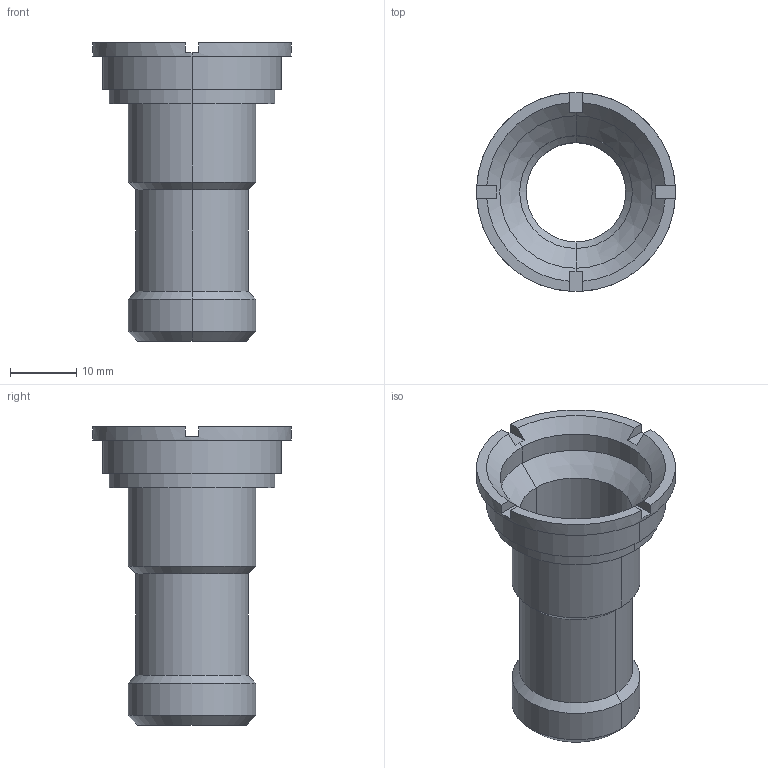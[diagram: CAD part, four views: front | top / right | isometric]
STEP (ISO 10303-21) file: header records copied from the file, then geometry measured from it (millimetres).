
FILE_DESCRIPTION(/* description */ ('VariCAD 2010-3.03 AP-214'),/* implementation_level */ '2;1');
FILE_NAME(/* name */ '0353-19-87',/* time_stamp */ '2011-03-02T15:27:50-07:00',/* author */ (''),/* organization */ (''),/* preprocessor_version */ 'ST-DEVELOPER v12',/* originating_system */ 'VariCAD 2010-3.03; kernel version (20100102)',/* authorisation */ '');
FILE_SCHEMA (('AUTOMOTIVE_DESIGN'));
Length unit declared in the file: millimetre
Products named in the file (1): Part
Bounding box: 30 x 30 x 45 mm (x, y, z)
Volume: 4407.6 mm3; surface area: 6969.3 mm2
Topology: 2 solids, 2 shells, 59 faces, 136 edges, 84 vertices
Faces by surface type: plane 23, cylinder 22, cone 14
Entity records: 2200 total; most frequent: CARTESIAN_POINT 366, DIRECTION 316, ORIENTED_EDGE 272, EDGE_CURVE 136, AXIS2_PLACEMENT_3D 128, VERTEX_POINT 84, EDGE_LOOP 66, CIRCLE 66
